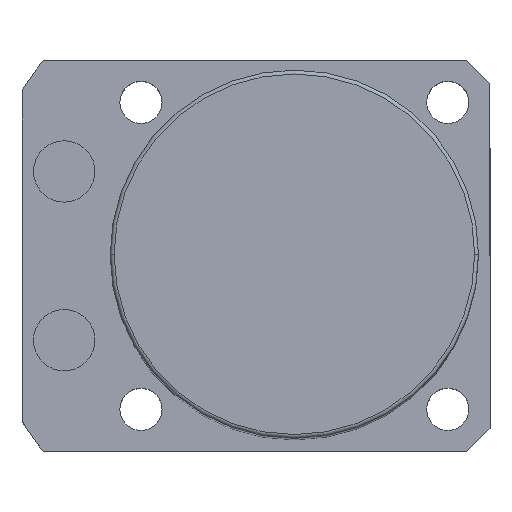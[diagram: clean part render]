
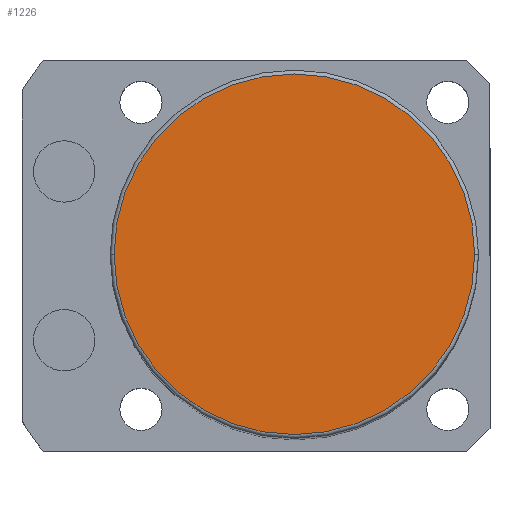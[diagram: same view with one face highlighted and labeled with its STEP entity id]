
A CAD part, top view. The second image highlights one B-rep face of the part: STEP entity #1226.
In plain terms, the highlighted planar face has unit normal (0, 0, 1).
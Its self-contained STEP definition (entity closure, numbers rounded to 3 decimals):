
#331 = CARTESIAN_POINT ( 'NONE',  ( 0., 0., 131. ) ) ;
#485 = DIRECTION ( 'NONE',  ( 0., 0., 1. ) ) ;
#555 = CARTESIAN_POINT ( 'NONE',  ( 23.5, 0., 131. ) ) ;
#831 = CARTESIAN_POINT ( 'NONE',  ( 0., 0., 131. ) ) ;
#1226 = ADVANCED_FACE ( 'NONE', ( #1515 ), #2303, .T. ) ;
#1282 = CIRCLE ( 'NONE', #4595, 23.5 ) ;
#1362 = DIRECTION ( 'NONE',  ( 0., 0., 1. ) ) ;
#1384 = DIRECTION ( 'NONE',  ( 1., 0., 0. ) ) ;
#1438 = ORIENTED_EDGE ( 'NONE', *, *, #3669, .T. ) ;
#1515 = FACE_OUTER_BOUND ( 'NONE', #4459, .T. ) ;
#2050 = VERTEX_POINT ( 'NONE', #555 ) ;
#2303 = PLANE ( 'NONE',  #4071 ) ;
#2354 = CIRCLE ( 'NONE', #5048, 23.5 ) ;
#2361 = DIRECTION ( 'NONE',  ( 1., 0., 0. ) ) ;
#2988 = ORIENTED_EDGE ( 'NONE', *, *, #3325, .T. ) ;
#3325 = EDGE_CURVE ( 'NONE', #6514, #2050, #1282, .T. ) ;
#3485 = CARTESIAN_POINT ( 'NONE',  ( 0., 0., 131. ) ) ;
#3669 = EDGE_CURVE ( 'NONE', #2050, #6514, #2354, .T. ) ;
#3994 = DIRECTION ( 'NONE',  ( 1., 0., 0. ) ) ;
#4071 = AXIS2_PLACEMENT_3D ( 'NONE', #331, #4847, #2361 ) ;
#4459 = EDGE_LOOP ( 'NONE', ( #1438, #2988 ) ) ;
#4595 = AXIS2_PLACEMENT_3D ( 'NONE', #3485, #485, #3994 ) ;
#4617 = CARTESIAN_POINT ( 'NONE',  ( -23.5, 0., 131. ) ) ;
#4847 = DIRECTION ( 'NONE',  ( 0., 0., 1. ) ) ;
#5048 = AXIS2_PLACEMENT_3D ( 'NONE', #831, #1362, #1384 ) ;
#6514 = VERTEX_POINT ( 'NONE', #4617 ) ;
